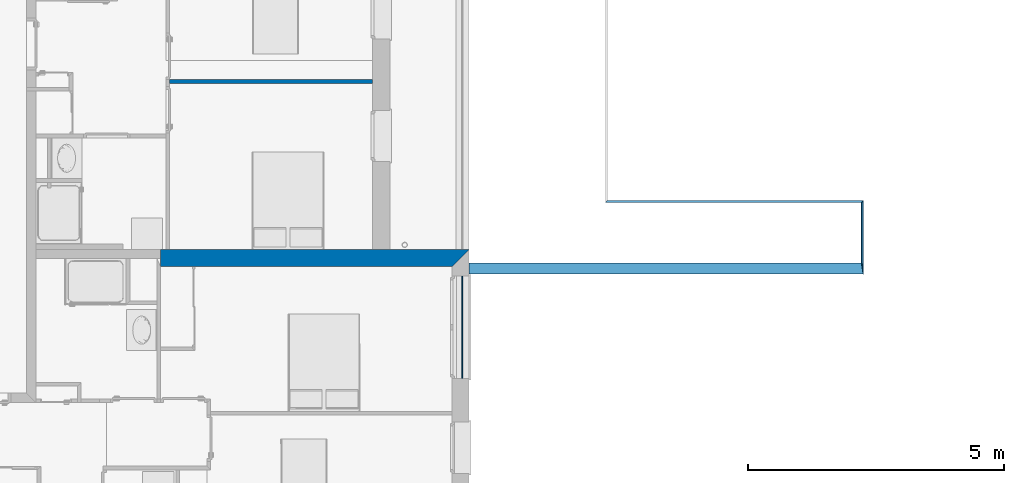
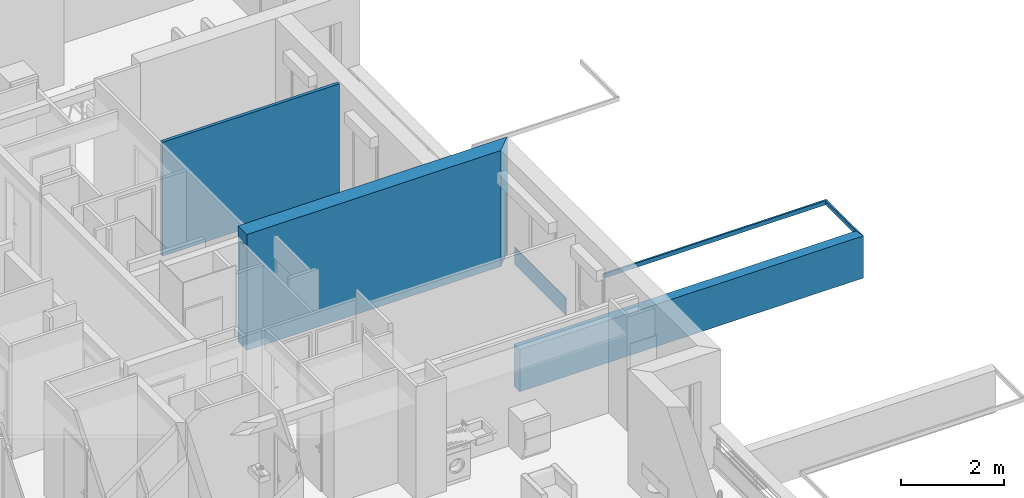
# One storey, part 42 of 171: 6 walls.
"""IFC2X3 building model written with IfcOpenShell, lengths in millimetres."""

from ifc_helpers import new_model, entity, si_unit, converted_unit, derived_unit, money_unit, direction, frame, origin_with_axes, place, context, subcontext, project, spatial, polyline, outline, extrude, material, layer, layer_set, layer_usage, type_object, element, save


model = new_model("IFC2X3")

# Units and contexts
model_context = context("Model", 3, precision=0.01, world=origin_with_axes(), true_north=direction((0.0, 1.0)))
body_context = subcontext(model_context, "Body", "Model", "MODEL_VIEW")
ifc_project = project(units=[si_unit("LENGTHUNIT", "METRE", prefix="MILLI"), si_unit("AREAUNIT", "SQUARE_METRE"), si_unit("VOLUMEUNIT", "CUBIC_METRE"), converted_unit("PLANEANGLEUNIT", "DEGREE", entity("IfcPlaneAngleMeasure", 0.0174532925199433), si_unit("PLANEANGLEUNIT", "RADIAN"), dimensions=[0, 0, 0, 0, 0, 0, 0]), money_unit("USD"), converted_unit("TIMEUNIT", "Year", entity("IfcTimeMeasure", 31557600.0), si_unit("TIMEUNIT", "SECOND"), dimensions=[0, 0, 1, 0, 0, 0, 0]), si_unit("MASSUNIT", "GRAM", prefix="KILO"), si_unit("THERMODYNAMICTEMPERATUREUNIT", "DEGREE_CELSIUS"), si_unit("LUMINOUSINTENSITYUNIT", "LUMEN"), si_unit("ENERGYUNIT", "JOULE", prefix="MEGA"), derived_unit("THERMALCONDUCTANCEUNIT", [(si_unit("POWERUNIT", "WATT"), 1), (si_unit("LENGTHUNIT", "METRE"), -1), (si_unit("THERMODYNAMICTEMPERATUREUNIT", "KELVIN"), -1)]), derived_unit("SPECIFICHEATCAPACITYUNIT", [(si_unit("ENERGYUNIT", "JOULE"), 1), (si_unit("MASSUNIT", "GRAM", prefix="KILO"), -1), (si_unit("THERMODYNAMICTEMPERATUREUNIT", "KELVIN"), -1)]), derived_unit("MASSDENSITYUNIT", [(si_unit("MASSUNIT", "GRAM", prefix="KILO"), 1), (si_unit("VOLUMEUNIT", "CUBIC_METRE"), -1)])], contexts=[model_context])

# Site, building, storey
site_placement = place(None, origin_with_axes())
site = spatial("IfcSite", under=ifc_project, at=site_placement, Name="Site", CompositionType="ELEMENT")
building_placement = place(site_placement, origin_with_axes())
building = spatial("IfcBuilding", under=site, at=building_placement, Name="Bâtiment", CompositionType="ELEMENT")
storey_placement = place(building_placement, frame((0.0, 0.0, 3000.0), z_axis=(0.0, 0.0, 1.0), x_axis=(1.0, 0.0, 0.0)))
storey = spatial("IfcBuildingStorey", under=building, at=storey_placement, Name="rdc", CompositionType="ELEMENT", Elevation=3000.0)

# Walls
ifc_material_1 = material(Name="Hachure solide 268963992")
ifc_layer_1 = layer(ifc_material_1, 70.0, ventilated="UNKNOWN")
ifc_layer_set_1 = layer_set([ifc_layer_1], Name="Cloison 70 0826278243")
ifc_layer_usage_1 = layer_usage(ifc_layer_set_1, "AXIS2", "NEGATIVE", 70.0)
wall_type_1 = type_object("IfcWallType", Name="Cloison 70 0826278243 70", PredefinedType="NOTDEFINED")
wall_1_placement = place(storey_placement, frame((2228500.650386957, -643495.4225443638, 0.0), z_axis=(0.0, 0.0, 1.0), x_axis=(1.0, -3.06328186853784e-10, 0.0)))
element("IfcWallStandardCase", 1, at=wall_1_placement, inside=storey, type_object=wall_type_1, material=ifc_layer_usage_1, Name="Mur-149", context=body_context, shape_type="SweptSolid", body=[
    extrude(outline(polyline([(0.0, 0.0), (3966.007710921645, 0.0), (3966.007710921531, 69.99999999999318), (-2.148681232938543e-08, 69.99999999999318), (0.0, 0.0)])), origin_with_axes(), (0.0, 0.0, 1.0), 2700.0),
])
ifc_material_2 = material(Name="MANQUANT")
ifc_layer_2 = layer(ifc_material_2, 20.0, ventilated="UNKNOWN")
ifc_layer_set_2 = layer_set([ifc_layer_2], Name="MANQUANT 20")
ifc_layer_usage_2 = layer_usage(ifc_layer_set_2, "AXIS2", "NEGATIVE", 20.0)
wall_type_2 = type_object("IfcWallType", Name="MANQUANT 20", PredefinedType="NOTDEFINED")
wall_2_placement = place(storey_placement, frame((2234231.64134472, -649260.1368958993, 100.0000000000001), z_axis=(0.0, 0.0, 1.0), x_axis=(0.0, 1.0, 0.0)))
element("IfcWallStandardCase", 2, at=wall_2_placement, inside=storey, type_object=wall_type_2, material=ifc_layer_usage_2, Name="Mur-150", context=body_context, shape_type="SweptSolid", body=[
    extrude(outline(polyline([(0.0, 0.0), (1999.999999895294, 0.0), (1999.999999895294, 19.99999999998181), (0.0, 19.99999999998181), (0.0, 0.0)])), origin_with_axes(), (0.0, 0.0, 1.0), 400.0),
])
ifc_material_3 = material(Name="Parpaing 312445824")
ifc_layer_3 = layer(ifc_material_3, 180.0, ventilated="UNKNOWN")
ifc_material_4 = material(Name="Isolant styromousse 301821074")
ifc_layer_4 = layer(ifc_material_4, 160.0, ventilated="UNKNOWN")
ifc_layer_set_3 = layer_set([ifc_layer_3, ifc_layer_4], Name="isol int 18+16 0018356637")
ifc_layer_usage_3 = layer_usage(ifc_layer_set_3, "AXIS2", "NEGATIVE", 0.0)
wall_type_3 = type_object("IfcWallType", Name="isol int 18+16 0018356637 340", PredefinedType="NOTDEFINED")
wall_3_placement = place(storey_placement, frame((2228326.880543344, -646738.4413036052, 0.0), z_axis=(0.0, 0.0, 1.0), x_axis=(1.0, -4.055991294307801e-10, 0.0)))
element("IfcWallStandardCase", 3, at=wall_3_placement, inside=storey, type_object=wall_type_3, material=ifc_layer_usage_3, Name="Mur-144", context=body_context, shape_type="SweptSolid", body=[
    extrude(outline(polyline([(6.889422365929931e-08, -340.0000000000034), (5689.747794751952, -340.0000000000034), (6029.745868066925, 0.0), (0.0, 0.0), (6.889422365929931e-08, -340.0000000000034)])), origin_with_axes(), (0.0, 0.0, 1.0), 2750.0),
])
ifc_material_5 = material(Name="Empty Fill 292498448")
ifc_layer_5 = layer(ifc_material_5, 40.0, ventilated="UNKNOWN")
ifc_layer_set_4 = layer_set([ifc_layer_5], Name="mur 4cm")
ifc_layer_usage_4 = layer_usage(ifc_layer_set_4, "AXIS2", "POSITIVE", -40.0)
wall_type_4 = type_object("IfcWallType", Name="mur 4cm 40", PredefinedType="NOTDEFINED")
wall_4_placement = place(storey_placement, frame((2237056.657583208, -645784.8035284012, -2100.0), z_axis=(0.0, 0.0, 1.0), x_axis=(1.0, 0.0, 0.0)))
element("IfcWallStandardCase", 4, at=wall_4_placement, inside=storey, type_object=wall_type_4, material=ifc_layer_usage_4, Name="Mur-166", context=body_context, shape_type="SweptSolid", body=[
    extrude(outline(polyline([(-39.99999999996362, -40.00000000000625), (4960.000000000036, -40.00000000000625), (5000.0, 0.0), (0.0, 0.0), (-39.99999999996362, -40.00000000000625)])), origin_with_axes(), (0.0, 0.0, 1.0), 100.0),
])
ifc_layer_usage_5 = layer_usage(ifc_layer_set_4, "AXIS2", "NEGATIVE", 40.0)
wall_5_placement = place(storey_placement, frame((2242056.657583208, -647223.2958935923, -2100.0), z_axis=(0.0, 0.0, 1.0), x_axis=(0.0, 1.0, 0.0)))
element("IfcWallStandardCase", 5, at=wall_5_placement, inside=storey, type_object=wall_type_4, material=ifc_layer_usage_5, Name="Mur-167", context=body_context, shape_type="SweptSolid", body=[
    extrude(outline(polyline([(0.0, 0.0), (1438.492365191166, 0.0), (1398.49236519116, 39.99999999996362), (220.0001086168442, 39.99999999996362), (0.0, 0.0)])), origin_with_axes(), (0.0, 0.0, 1.0), 100.0),
])
ifc_material_6 = material(Name="Parpaing 314940890")
ifc_layer_6 = layer(ifc_material_6, 220.0, ventilated="UNKNOWN")
ifc_layer_set_5 = layer_set([ifc_layer_6], Name="Beton  22 0018356637")
ifc_layer_usage_6 = layer_usage(ifc_layer_set_5, "AXIS2", "POSITIVE", -220.0)
wall_type_5 = type_object("IfcWallType", Name="Beton  22 0018356637 220", PredefinedType="NOTDEFINED")
wall_6_placement = place(storey_placement, frame((2242056.657583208, -647223.2958935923, -2999.999999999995), z_axis=(0.0, 0.0, 1.0), x_axis=(-0.9999999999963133, 2.715400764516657e-06, 0.0)))
element("IfcWallStandardCase", 6, at=wall_6_placement, inside=storey, type_object=wall_type_5, material=ifc_layer_usage_6, Name="Mur-168", context=body_context, shape_type="SweptSolid", body=[
    extrude(outline(polyline([(40.00059738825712, -220.0000000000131), (7699.986286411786, -220.0000000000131), (7699.986286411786, 0.0), (0.0, 0.0), (40.00059738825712, -220.0000000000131)])), origin_with_axes(), (0.0, 0.0, 1.0), 999.9999999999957),
])

save(model, "model.ifc")
